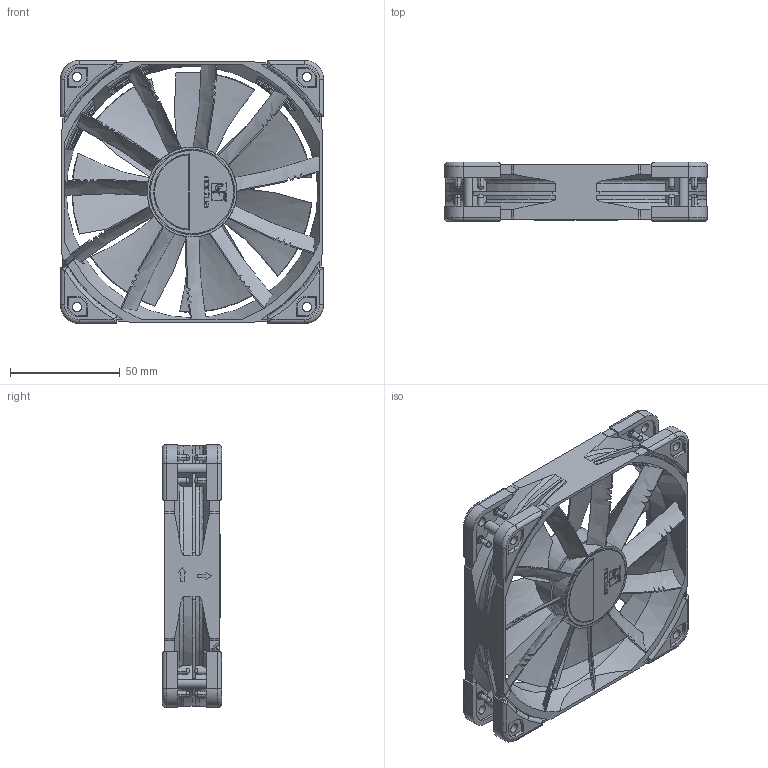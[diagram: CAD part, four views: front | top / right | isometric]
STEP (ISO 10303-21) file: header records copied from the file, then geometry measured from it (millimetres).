
FILE_DESCRIPTION(/* description */ ('140mm Desk Fan'),/* implementation_level */ '2;1');
FILE_NAME(/* name */ 'NF-F12_Public-CAD',/* time_stamp */ '2026-03-26T16:55:15+01:00',/* author */ ('Andreas'),/* organization */ ('Rascom'),/* preprocessor_version */ 'ST-DEVELOPER v18.102',/* originating_system */ 'Solid Edge',/* authorisation */ 'Unknown');
FILE_SCHEMA (('AUTOMOTIVE_DESIGN {1 0 10303 214 3 1 1}'));
Length unit declared in the file: millimetre
Products named in the file (5): NF-F12_Public-CAD; NF-F12_frame-public; NF-F12_impeller-public; NA-AVP1; Fan-Label-D38mm-Regular
Assembly tree (11 placements, depth 2):
  NF-F12_Public-CAD
    NF-F12_frame-public
    NF-F12_impeller-public
    NA-AVP1  x8
    Fan-Label-D38mm-Regular
Bounding box: 120 x 27 x 120 mm (x, y, z)
Volume: 96032.3 mm3; surface area: 81627.5 mm2
Topology: 11 solids, 11 shells, 1275 faces, 3525 edges, 2315 vertices
Faces by surface type: plane 579, cylinder 358, torus 118, bspline 98, cone 90, sphere 32
Full cylindrical faces by diameter (mm): 3 x16, 4.3 x8, 38 x1, 39 x1, 41 x2, 114.9 x1
Entity records: 41489 total; most frequent: CARTESIAN_POINT 20813, ORIENTED_EDGE 4674, DIRECTION 2992, EDGE_CURVE 2337, VERTEX_POINT 1586, B_SPLINE_CURVE_WITH_KNOTS 1110, AXIS2_PLACEMENT_3D 1048, EDGE_LOOP 979
